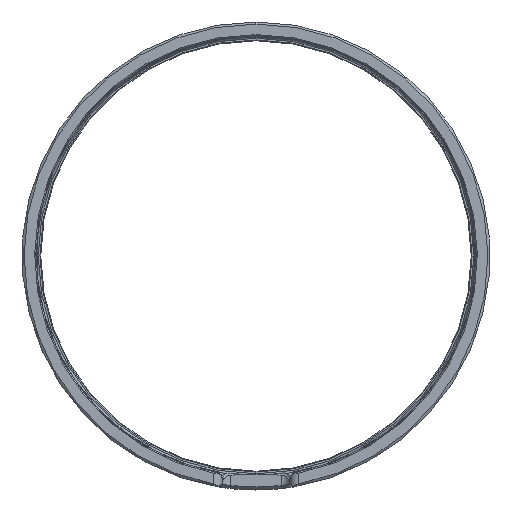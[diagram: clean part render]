
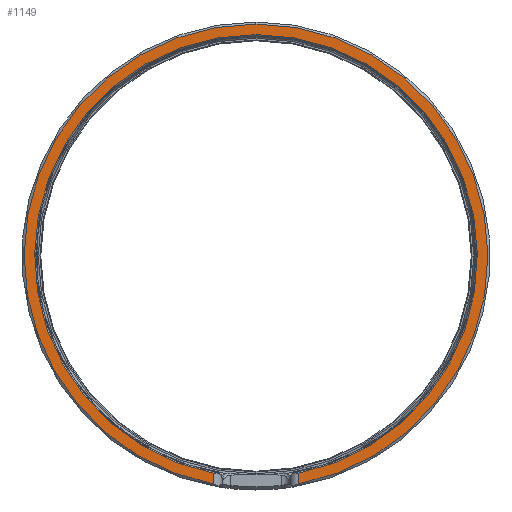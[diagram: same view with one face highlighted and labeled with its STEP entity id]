
A CAD part, left-side view. The second image highlights one B-rep face of the part: STEP entity #1149.
In plain terms, the highlighted planar face has unit normal (-1, 0, 0).
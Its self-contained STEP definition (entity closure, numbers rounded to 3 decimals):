
#197 = EDGE_CURVE ( 'NONE', #4512, #3617, #5307, .T. ) ;
#277 = EDGE_CURVE ( 'NONE', #3617, #1674, #2161, .T. ) ;
#335 = AXIS2_PLACEMENT_3D ( 'NONE', #5434, #3730, #3250 ) ;
#394 = DIRECTION ( 'NONE',  ( 0., 0., -1. ) ) ;
#730 = VECTOR ( 'NONE', #993, 1000. ) ;
#869 = DIRECTION ( 'NONE',  ( -1., 0., 0. ) ) ;
#877 = CARTESIAN_POINT ( 'NONE',  ( -200., 10.2, -56. ) ) ;
#993 = DIRECTION ( 'NONE',  ( 0., 0., 1. ) ) ;
#999 = VERTEX_POINT ( 'NONE', #4888 ) ;
#1149 = ADVANCED_FACE ( 'NONE', ( #5336 ), #4853, .T. ) ;
#1287 = EDGE_CURVE ( 'NONE', #1674, #999, #5519, .T. ) ;
#1292 = CIRCLE ( 'NONE', #1901, 52.975 ) ;
#1412 = VERTEX_POINT ( 'NONE', #1634 ) ;
#1438 = ORIENTED_EDGE ( 'NONE', *, *, #1287, .T. ) ;
#1634 = CARTESIAN_POINT ( 'NONE',  ( -200., -10.2, -51.984 ) ) ;
#1674 = VERTEX_POINT ( 'NONE', #4673 ) ;
#1726 = CARTESIAN_POINT ( 'NONE',  ( -200., 0., 0. ) ) ;
#1787 = VECTOR ( 'NONE', #3273, 1000. ) ;
#1858 = EDGE_LOOP ( 'NONE', ( #3188, #3607, #2864, #1438, #5918 ) ) ;
#1901 = AXIS2_PLACEMENT_3D ( 'NONE', #4013, #869, #5864 ) ;
#2161 = CIRCLE ( 'NONE', #4741, 55.5 ) ;
#2791 = CARTESIAN_POINT ( 'NONE',  ( -200., -10.2, -56. ) ) ;
#2792 = EDGE_CURVE ( 'NONE', #4512, #1412, #3211, .T. ) ;
#2864 = ORIENTED_EDGE ( 'NONE', *, *, #277, .T. ) ;
#3188 = ORIENTED_EDGE ( 'NONE', *, *, #2792, .F. ) ;
#3211 = LINE ( 'NONE', #2791, #730 ) ;
#3222 = CARTESIAN_POINT ( 'NONE',  ( -200., 0., 0. ) ) ;
#3250 = DIRECTION ( 'NONE',  ( 0., 0., 1. ) ) ;
#3273 = DIRECTION ( 'NONE',  ( 0., 0., 1. ) ) ;
#3559 = DIRECTION ( 'NONE',  ( -1., 0., 0. ) ) ;
#3607 = ORIENTED_EDGE ( 'NONE', *, *, #197, .T. ) ;
#3617 = VERTEX_POINT ( 'NONE', #3904 ) ;
#3730 = DIRECTION ( 'NONE',  ( -1., 0., 0. ) ) ;
#3885 = AXIS2_PLACEMENT_3D ( 'NONE', #1726, #3559, #394 ) ;
#3904 = CARTESIAN_POINT ( 'NONE',  ( -200., 0., 55.5 ) ) ;
#4013 = CARTESIAN_POINT ( 'NONE',  ( -200., 0., 0. ) ) ;
#4512 = VERTEX_POINT ( 'NONE', #5391 ) ;
#4566 = DIRECTION ( 'NONE',  ( 0., 0., 1. ) ) ;
#4673 = CARTESIAN_POINT ( 'NONE',  ( -200., 10.2, -54.555 ) ) ;
#4741 = AXIS2_PLACEMENT_3D ( 'NONE', #3222, #5491, #4566 ) ;
#4816 = EDGE_CURVE ( 'NONE', #1412, #999, #1292, .T. ) ;
#4853 = PLANE ( 'NONE',  #3885 ) ;
#4888 = CARTESIAN_POINT ( 'NONE',  ( -200., 10.2, -51.984 ) ) ;
#5307 = CIRCLE ( 'NONE', #335, 55.5 ) ;
#5336 = FACE_OUTER_BOUND ( 'NONE', #1858, .T. ) ;
#5391 = CARTESIAN_POINT ( 'NONE',  ( -200., -10.2, -54.555 ) ) ;
#5434 = CARTESIAN_POINT ( 'NONE',  ( -200., 0., 0. ) ) ;
#5491 = DIRECTION ( 'NONE',  ( -1., 0., 0. ) ) ;
#5519 = LINE ( 'NONE', #877, #1787 ) ;
#5864 = DIRECTION ( 'NONE',  ( 0., 0., 1. ) ) ;
#5918 = ORIENTED_EDGE ( 'NONE', *, *, #4816, .F. ) ;
